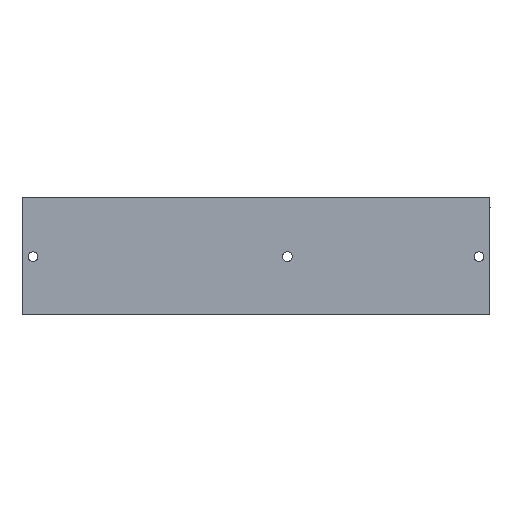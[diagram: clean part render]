
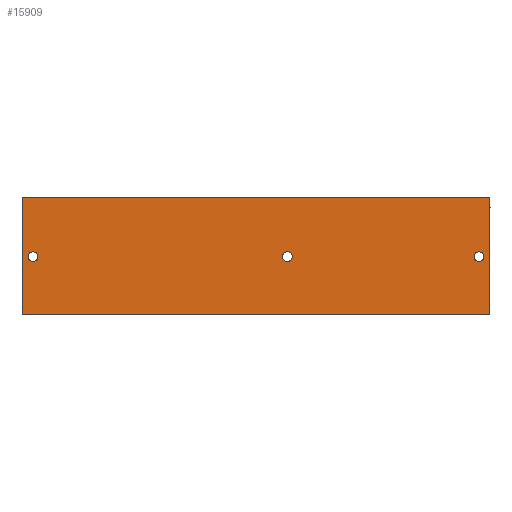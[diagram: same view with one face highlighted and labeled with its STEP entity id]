
A CAD part, front view. The second image highlights one B-rep face of the part: STEP entity #15909.
In plain terms, the highlighted planar face has unit normal (0, -1, 0).
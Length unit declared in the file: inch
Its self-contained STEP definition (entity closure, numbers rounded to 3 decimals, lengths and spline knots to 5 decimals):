
#493 = ORIENTED_EDGE ( 'NONE', *, *, #10213, .T. ) ;
#1021 = CARTESIAN_POINT ( 'NONE',  ( 15.505, 0., -2.02 ) ) ;
#1629 = CIRCLE ( 'NONE', #18348, 0.164 ) ;
#1767 = VERTEX_POINT ( 'NONE', #22154 ) ;
#1792 = VERTEX_POINT ( 'NONE', #22822 ) ;
#2388 = CARTESIAN_POINT ( 'NONE',  ( 0.375, 0., -1.856 ) ) ;
#2460 = DIRECTION ( 'NONE',  ( 0., 0., 1. ) ) ;
#2477 = DIRECTION ( 'NONE',  ( 0., 1., 0. ) ) ;
#2484 = CARTESIAN_POINT ( 'NONE',  ( 0.375, 0., -2.02 ) ) ;
#2587 = CARTESIAN_POINT ( 'NONE',  ( 9.005, 0., -2.02 ) ) ;
#2668 = EDGE_CURVE ( 'NONE', #2679, #13672, #28292, .T. ) ;
#2679 = VERTEX_POINT ( 'NONE', #2388 ) ;
#2929 = EDGE_CURVE ( 'NONE', #1767, #1792, #16787, .T. ) ;
#3180 = CARTESIAN_POINT ( 'NONE',  ( 15.505, 0., -2.02 ) ) ;
#3356 = DIRECTION ( 'NONE',  ( 0., 0., 1. ) ) ;
#3429 = LINE ( 'NONE', #10314, #20837 ) ;
#3752 = VERTEX_POINT ( 'NONE', #4386 ) ;
#3781 = CARTESIAN_POINT ( 'NONE',  ( 15.505, 0., -2.184 ) ) ;
#3787 = FACE_BOUND ( 'NONE', #24167, .T. ) ;
#3954 = EDGE_LOOP ( 'NONE', ( #15938, #23251 ) ) ;
#4386 = CARTESIAN_POINT ( 'NONE',  ( 0., 0., 0. ) ) ;
#4864 = VECTOR ( 'NONE', #13544, 39.37008 ) ;
#4905 = DIRECTION ( 'NONE',  ( 0., 0., 1. ) ) ;
#5023 = EDGE_LOOP ( 'NONE', ( #17690, #6953 ) ) ;
#5474 = DIRECTION ( 'NONE',  ( 0., 0., 1. ) ) ;
#5488 = CARTESIAN_POINT ( 'NONE',  ( 0.375, 0., -2.02 ) ) ;
#5739 = EDGE_CURVE ( 'NONE', #29268, #28933, #22943, .T. ) ;
#5836 = EDGE_CURVE ( 'NONE', #28933, #6284, #3429, .T. ) ;
#5895 = DIRECTION ( 'NONE',  ( -1., 0., 0. ) ) ;
#5980 = ORIENTED_EDGE ( 'NONE', *, *, #5836, .F. ) ;
#6284 = VERTEX_POINT ( 'NONE', #26552 ) ;
#6488 = CARTESIAN_POINT ( 'NONE',  ( 15.505, 0., -1.856 ) ) ;
#6661 = AXIS2_PLACEMENT_3D ( 'NONE', #2587, #18567, #4905 ) ;
#6953 = ORIENTED_EDGE ( 'NONE', *, *, #2929, .T. ) ;
#7791 = DIRECTION ( 'NONE',  ( 0., 0., 1. ) ) ;
#8568 = CARTESIAN_POINT ( 'NONE',  ( 15.88, 0., 0. ) ) ;
#10213 = EDGE_CURVE ( 'NONE', #16853, #22945, #28414, .T. ) ;
#10314 = CARTESIAN_POINT ( 'NONE',  ( 15.88, 0., -4. ) ) ;
#10399 = CARTESIAN_POINT ( 'NONE',  ( 15.88, 0., -4. ) ) ;
#10568 = AXIS2_PLACEMENT_3D ( 'NONE', #2484, #2477, #2460 ) ;
#10632 = FACE_BOUND ( 'NONE', #3954, .T. ) ;
#10649 = DIRECTION ( 'NONE',  ( -1., 0., 0. ) ) ;
#13219 = DIRECTION ( 'NONE',  ( 0., 0., 1. ) ) ;
#13544 = DIRECTION ( 'NONE',  ( 0., 0., -1. ) ) ;
#13672 = VERTEX_POINT ( 'NONE', #26900 ) ;
#13808 = CARTESIAN_POINT ( 'NONE',  ( 15.88, 0., 0. ) ) ;
#14459 = EDGE_CURVE ( 'NONE', #1792, #1767, #27873, .T. ) ;
#14898 = VECTOR ( 'NONE', #5895, 39.37008 ) ;
#15413 = DIRECTION ( 'NONE',  ( 0., 1., 0. ) ) ;
#15604 = ORIENTED_EDGE ( 'NONE', *, *, #19832, .T. ) ;
#15909 = ADVANCED_FACE ( 'NONE', ( #27851, #10632, #3787, #22603 ), #26610, .F. ) ;
#15938 = ORIENTED_EDGE ( 'NONE', *, *, #2668, .T. ) ;
#16178 = CARTESIAN_POINT ( 'NONE',  ( 0., 0., 0. ) ) ;
#16694 = ORIENTED_EDGE ( 'NONE', *, *, #5739, .F. ) ;
#16729 = EDGE_CURVE ( 'NONE', #29268, #3752, #20106, .T. ) ;
#16787 = CIRCLE ( 'NONE', #28157, 0.164 ) ;
#16853 = VERTEX_POINT ( 'NONE', #6488 ) ;
#17067 = DIRECTION ( 'NONE',  ( 0., 1., 0. ) ) ;
#17321 = CARTESIAN_POINT ( 'NONE',  ( 15.88, 0., 0. ) ) ;
#17690 = ORIENTED_EDGE ( 'NONE', *, *, #14459, .T. ) ;
#17713 = CIRCLE ( 'NONE', #23755, 0.164 ) ;
#18298 = AXIS2_PLACEMENT_3D ( 'NONE', #8568, #15413, #13219 ) ;
#18348 = AXIS2_PLACEMENT_3D ( 'NONE', #5488, #21363, #7791 ) ;
#18413 = CARTESIAN_POINT ( 'NONE',  ( 15.88, 0., 0. ) ) ;
#18418 = DIRECTION ( 'NONE',  ( 0., 0., -1. ) ) ;
#18567 = DIRECTION ( 'NONE',  ( 0., 1., 0. ) ) ;
#19134 = DIRECTION ( 'NONE',  ( 0., 1., 0. ) ) ;
#19245 = EDGE_CURVE ( 'NONE', #13672, #2679, #1629, .T. ) ;
#19286 = ORIENTED_EDGE ( 'NONE', *, *, #16729, .T. ) ;
#19832 = EDGE_CURVE ( 'NONE', #22945, #16853, #17713, .T. ) ;
#20106 = LINE ( 'NONE', #17321, #14898 ) ;
#20837 = VECTOR ( 'NONE', #10649, 39.37008 ) ;
#21363 = DIRECTION ( 'NONE',  ( 0., 1., 0. ) ) ;
#21622 = LINE ( 'NONE', #16178, #26172 ) ;
#22154 = CARTESIAN_POINT ( 'NONE',  ( 9.005, 0., -2.184 ) ) ;
#22603 = FACE_OUTER_BOUND ( 'NONE', #26250, .T. ) ;
#22822 = CARTESIAN_POINT ( 'NONE',  ( 9.005, 0., -1.856 ) ) ;
#22908 = ORIENTED_EDGE ( 'NONE', *, *, #27707, .T. ) ;
#22943 = LINE ( 'NONE', #13808, #4864 ) ;
#22945 = VERTEX_POINT ( 'NONE', #3781 ) ;
#23251 = ORIENTED_EDGE ( 'NONE', *, *, #19245, .T. ) ;
#23755 = AXIS2_PLACEMENT_3D ( 'NONE', #1021, #17067, #3356 ) ;
#24167 = EDGE_LOOP ( 'NONE', ( #493, #15604 ) ) ;
#26172 = VECTOR ( 'NONE', #18418, 39.37008 ) ;
#26250 = EDGE_LOOP ( 'NONE', ( #22908, #5980, #16694, #19286 ) ) ;
#26435 = DIRECTION ( 'NONE',  ( 0., 0., 1. ) ) ;
#26524 = DIRECTION ( 'NONE',  ( 0., 1., 0. ) ) ;
#26552 = CARTESIAN_POINT ( 'NONE',  ( 0., 0., -4. ) ) ;
#26610 = PLANE ( 'NONE',  #18298 ) ;
#26900 = CARTESIAN_POINT ( 'NONE',  ( 0.375, 0., -2.184 ) ) ;
#27142 = AXIS2_PLACEMENT_3D ( 'NONE', #3180, #19134, #5474 ) ;
#27229 = CARTESIAN_POINT ( 'NONE',  ( 9.005, 0., -2.02 ) ) ;
#27707 = EDGE_CURVE ( 'NONE', #3752, #6284, #21622, .T. ) ;
#27851 = FACE_BOUND ( 'NONE', #5023, .T. ) ;
#27873 = CIRCLE ( 'NONE', #6661, 0.164 ) ;
#28157 = AXIS2_PLACEMENT_3D ( 'NONE', #27229, #26524, #26435 ) ;
#28292 = CIRCLE ( 'NONE', #10568, 0.164 ) ;
#28414 = CIRCLE ( 'NONE', #27142, 0.164 ) ;
#28933 = VERTEX_POINT ( 'NONE', #10399 ) ;
#29268 = VERTEX_POINT ( 'NONE', #18413 ) ;
